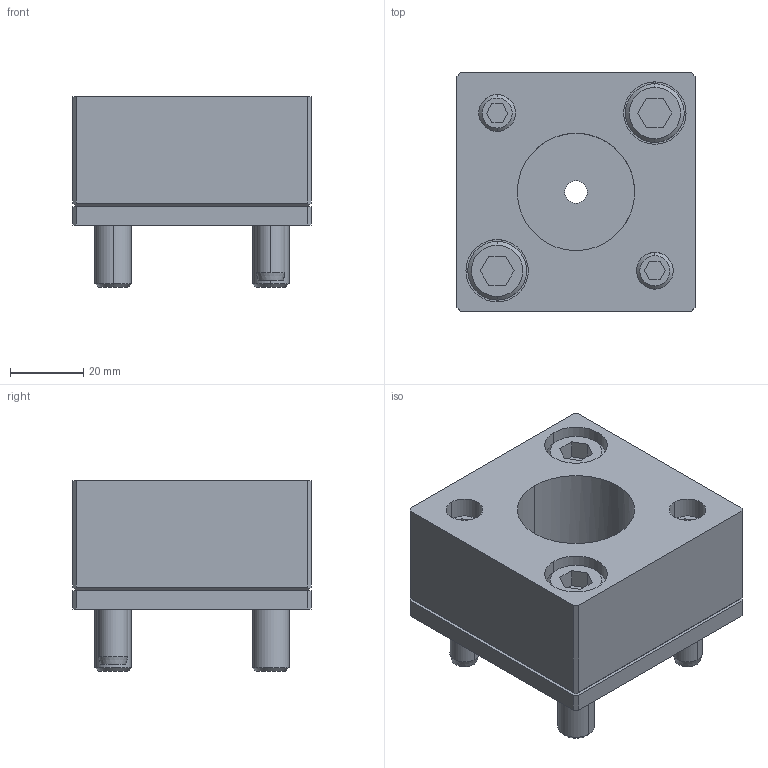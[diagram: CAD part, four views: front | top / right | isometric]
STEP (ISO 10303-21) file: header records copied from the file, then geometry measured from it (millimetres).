
FILE_DESCRIPTION(/* description */ (''),/* implementation_level */ '2;1');
FILE_NAME(/* name */ '3d_sr-fp32_05488_r00.stp',/* time_stamp */ '2011-01-10T14:09:57+09:00',/* author */ ('MISUMI'),/* organization */ (''),/* preprocessor_version */ 'ST-DEVELOPER v11',/* originating_system */ 'UGS - NX 5.0',/* authorisation */ '');
FILE_SCHEMA (('CONFIG_CONTROL_DESIGN'));
Length unit declared in the file: millimetre
Products named in the file (1): 3d_sr-fp32_05488_r00
Bounding box: 65 x 65 x 52 mm (x, y, z)
Volume: 121432.3 mm3; surface area: 38306.4 mm2
Topology: 8 solids, 8 shells, 159 faces, 364 edges, 235 vertices
Faces by surface type: plane 78, cylinder 55, cone 26
Entity records: 4634 total; most frequent: DIRECTION 814, CARTESIAN_POINT 804, ORIENTED_EDGE 728, EDGE_CURVE 364, AXIS2_PLACEMENT_3D 297, VERTEX_POINT 235, LINE 220, VECTOR 220
